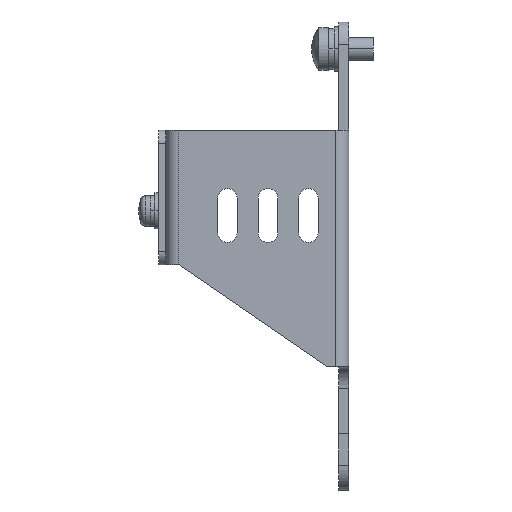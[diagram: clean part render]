
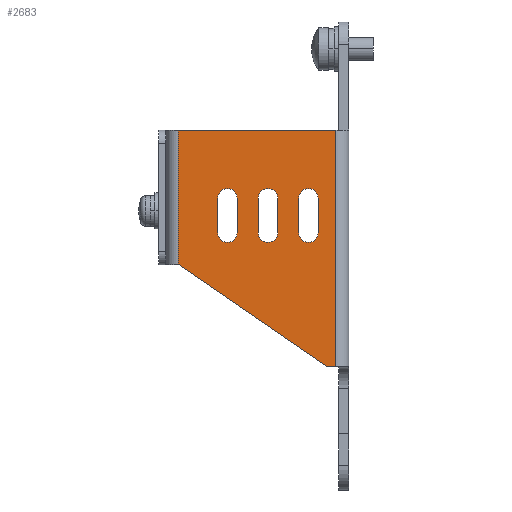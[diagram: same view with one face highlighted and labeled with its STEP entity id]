
A CAD part, left-side view. The second image highlights one B-rep face of the part: STEP entity #2683.
In plain terms, the highlighted planar face has unit normal (-1, 0, 0).
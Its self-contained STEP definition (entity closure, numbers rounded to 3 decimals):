
#473=DIRECTION('',(0.,0.,1.));
#474=VECTOR('',#473,52.5);
#475=CARTESIAN_POINT('',(-83.5,2.9,27.5));
#476=LINE('',#475,#474);
#491=DIRECTION('',(0.,1.,0.));
#492=VECTOR('',#491,35.);
#493=CARTESIAN_POINT('',(-83.5,2.9,80.));
#494=LINE('',#493,#492);
#495=DIRECTION('',(0.,-1.,0.));
#496=VECTOR('',#495,2.1);
#497=CARTESIAN_POINT('',(-83.5,5.,27.5));
#498=LINE('',#497,#496);
#499=DIRECTION('',(0.,-0.824,-0.567));
#500=VECTOR('',#499,39.693);
#501=CARTESIAN_POINT('',(-83.5,37.7,50.));
#502=LINE('',#501,#500);
#503=DIRECTION('',(0.,-1.,0.));
#504=VECTOR('',#503,0.2);
#505=CARTESIAN_POINT('',(-83.5,37.9,50.));
#506=LINE('',#505,#504);
#507=CARTESIAN_POINT('',(-83.5,9.,57.15));
#508=DIRECTION('',(-1.,0.,0.));
#509=DIRECTION('',(0.,1.,0.));
#510=AXIS2_PLACEMENT_3D('',#507,#508,#509);
#512=DIRECTION('',(0.,0.,-1.));
#513=VECTOR('',#512,7.7);
#514=CARTESIAN_POINT('',(-83.5,6.85,64.85));
#515=LINE('',#514,#513);
#516=CARTESIAN_POINT('',(-83.5,9.,64.85));
#517=DIRECTION('',(-1.,0.,0.));
#518=DIRECTION('',(0.,-1.,0.));
#519=AXIS2_PLACEMENT_3D('',#516,#517,#518);
#521=DIRECTION('',(0.,0.,1.));
#522=VECTOR('',#521,7.7);
#523=CARTESIAN_POINT('',(-83.5,11.15,57.15));
#524=LINE('',#523,#522);
#525=CARTESIAN_POINT('',(-83.5,18.,57.15));
#526=DIRECTION('',(-1.,0.,0.));
#527=DIRECTION('',(0.,1.,0.));
#528=AXIS2_PLACEMENT_3D('',#525,#526,#527);
#530=DIRECTION('',(0.,0.,-1.));
#531=VECTOR('',#530,7.7);
#532=CARTESIAN_POINT('',(-83.5,15.85,64.85));
#533=LINE('',#532,#531);
#534=CARTESIAN_POINT('',(-83.5,18.,64.85));
#535=DIRECTION('',(-1.,0.,0.));
#536=DIRECTION('',(0.,-1.,0.));
#537=AXIS2_PLACEMENT_3D('',#534,#535,#536);
#539=DIRECTION('',(0.,0.,1.));
#540=VECTOR('',#539,7.7);
#541=CARTESIAN_POINT('',(-83.5,20.15,57.15));
#542=LINE('',#541,#540);
#543=CARTESIAN_POINT('',(-83.5,27.,57.15));
#544=DIRECTION('',(-1.,0.,0.));
#545=DIRECTION('',(0.,1.,0.));
#546=AXIS2_PLACEMENT_3D('',#543,#544,#545);
#548=DIRECTION('',(0.,0.,-1.));
#549=VECTOR('',#548,7.7);
#550=CARTESIAN_POINT('',(-83.5,24.85,64.85));
#551=LINE('',#550,#549);
#552=CARTESIAN_POINT('',(-83.5,27.,64.85));
#553=DIRECTION('',(-1.,0.,0.));
#554=DIRECTION('',(0.,-1.,0.));
#555=AXIS2_PLACEMENT_3D('',#552,#553,#554);
#557=DIRECTION('',(0.,0.,1.));
#558=VECTOR('',#557,7.7);
#559=CARTESIAN_POINT('',(-83.5,29.15,57.15));
#560=LINE('',#559,#558);
#578=DIRECTION('',(0.,0.,1.));
#579=VECTOR('',#578,30.);
#580=CARTESIAN_POINT('',(-83.5,37.9,50.));
#581=LINE('',#580,#579);
#1785=CARTESIAN_POINT('',(-83.5,11.15,57.15));
#1786=CARTESIAN_POINT('',(-83.5,6.85,57.15));
#1787=VERTEX_POINT('',#1785);
#1788=VERTEX_POINT('',#1786);
#1789=CARTESIAN_POINT('',(-83.5,11.15,64.85));
#1790=VERTEX_POINT('',#1789);
#1791=CARTESIAN_POINT('',(-83.5,6.85,64.85));
#1792=VERTEX_POINT('',#1791);
#1801=CARTESIAN_POINT('',(-83.5,20.15,57.15));
#1802=CARTESIAN_POINT('',(-83.5,15.85,57.15));
#1803=VERTEX_POINT('',#1801);
#1804=VERTEX_POINT('',#1802);
#1805=CARTESIAN_POINT('',(-83.5,20.15,64.85));
#1806=VERTEX_POINT('',#1805);
#1807=CARTESIAN_POINT('',(-83.5,15.85,64.85));
#1808=VERTEX_POINT('',#1807);
#1849=CARTESIAN_POINT('',(-83.5,5.,27.5));
#1850=CARTESIAN_POINT('',(-83.5,2.9,27.5));
#1851=VERTEX_POINT('',#1849);
#1852=VERTEX_POINT('',#1850);
#1865=CARTESIAN_POINT('',(-83.5,37.7,50.));
#1866=VERTEX_POINT('',#1865);
#1867=CARTESIAN_POINT('',(-83.5,2.9,80.));
#1868=VERTEX_POINT('',#1867);
#1893=CARTESIAN_POINT('',(-83.5,29.15,57.15));
#1894=CARTESIAN_POINT('',(-83.5,24.85,57.15));
#1895=VERTEX_POINT('',#1893);
#1896=VERTEX_POINT('',#1894);
#1897=CARTESIAN_POINT('',(-83.5,29.15,64.85));
#1898=VERTEX_POINT('',#1897);
#1899=CARTESIAN_POINT('',(-83.5,24.85,64.85));
#1900=VERTEX_POINT('',#1899);
#1961=CARTESIAN_POINT('',(-83.5,37.9,80.));
#1962=VERTEX_POINT('',#1961);
#1963=CARTESIAN_POINT('',(-83.5,37.9,50.));
#1964=VERTEX_POINT('',#1963);
#2635=CARTESIAN_POINT('',(-83.5,0.,45.676));
#2636=DIRECTION('',(-1.,0.,0.));
#2637=DIRECTION('',(0.,0.,1.));
#2638=AXIS2_PLACEMENT_3D('',#2635,#2636,#2637);
#2639=PLANE('',#2638);
#2641=ORIENTED_EDGE('',*,*,#2640,.F.);
#2642=ORIENTED_EDGE('',*,*,#2626,.F.);
#2644=ORIENTED_EDGE('',*,*,#2643,.F.);
#2646=ORIENTED_EDGE('',*,*,#2645,.F.);
#2648=ORIENTED_EDGE('',*,*,#2647,.F.);
#2650=ORIENTED_EDGE('',*,*,#2649,.T.);
#2651=EDGE_LOOP('',(#2641,#2642,#2644,#2646,#2648,#2650));
#2652=FACE_OUTER_BOUND('',#2651,.F.);
#2654=ORIENTED_EDGE('',*,*,#2653,.T.);
#2656=ORIENTED_EDGE('',*,*,#2655,.F.);
#2658=ORIENTED_EDGE('',*,*,#2657,.T.);
#2660=ORIENTED_EDGE('',*,*,#2659,.F.);
#2661=EDGE_LOOP('',(#2654,#2656,#2658,#2660));
#2662=FACE_BOUND('',#2661,.F.);
#2664=ORIENTED_EDGE('',*,*,#2663,.T.);
#2666=ORIENTED_EDGE('',*,*,#2665,.F.);
#2668=ORIENTED_EDGE('',*,*,#2667,.T.);
#2670=ORIENTED_EDGE('',*,*,#2669,.F.);
#2671=EDGE_LOOP('',(#2664,#2666,#2668,#2670));
#2672=FACE_BOUND('',#2671,.F.);
#2674=ORIENTED_EDGE('',*,*,#2673,.T.);
#2676=ORIENTED_EDGE('',*,*,#2675,.F.);
#2678=ORIENTED_EDGE('',*,*,#2677,.T.);
#2680=ORIENTED_EDGE('',*,*,#2679,.F.);
#2681=EDGE_LOOP('',(#2674,#2676,#2678,#2680));
#2682=FACE_BOUND('',#2681,.F.);
#2683=ADVANCED_FACE('',(#2652,#2662,#2672,#2682),#2639,.T.);
#511=CIRCLE('',#510,2.15);
#520=CIRCLE('',#519,2.15);
#529=CIRCLE('',#528,2.15);
#538=CIRCLE('',#537,2.15);
#547=CIRCLE('',#546,2.15);
#556=CIRCLE('',#555,2.15);
#2626=EDGE_CURVE('',#1852,#1868,#476,.T.);
#2640=EDGE_CURVE('',#1868,#1962,#494,.T.);
#2643=EDGE_CURVE('',#1851,#1852,#498,.T.);
#2645=EDGE_CURVE('',#1866,#1851,#502,.T.);
#2647=EDGE_CURVE('',#1964,#1866,#506,.T.);
#2649=EDGE_CURVE('',#1964,#1962,#581,.T.);
#2653=EDGE_CURVE('',#1787,#1788,#511,.T.);
#2655=EDGE_CURVE('',#1792,#1788,#515,.T.);
#2657=EDGE_CURVE('',#1792,#1790,#520,.T.);
#2659=EDGE_CURVE('',#1787,#1790,#524,.T.);
#2663=EDGE_CURVE('',#1803,#1804,#529,.T.);
#2665=EDGE_CURVE('',#1808,#1804,#533,.T.);
#2667=EDGE_CURVE('',#1808,#1806,#538,.T.);
#2669=EDGE_CURVE('',#1803,#1806,#542,.T.);
#2673=EDGE_CURVE('',#1895,#1896,#547,.T.);
#2675=EDGE_CURVE('',#1900,#1896,#551,.T.);
#2677=EDGE_CURVE('',#1900,#1898,#556,.T.);
#2679=EDGE_CURVE('',#1895,#1898,#560,.T.);
